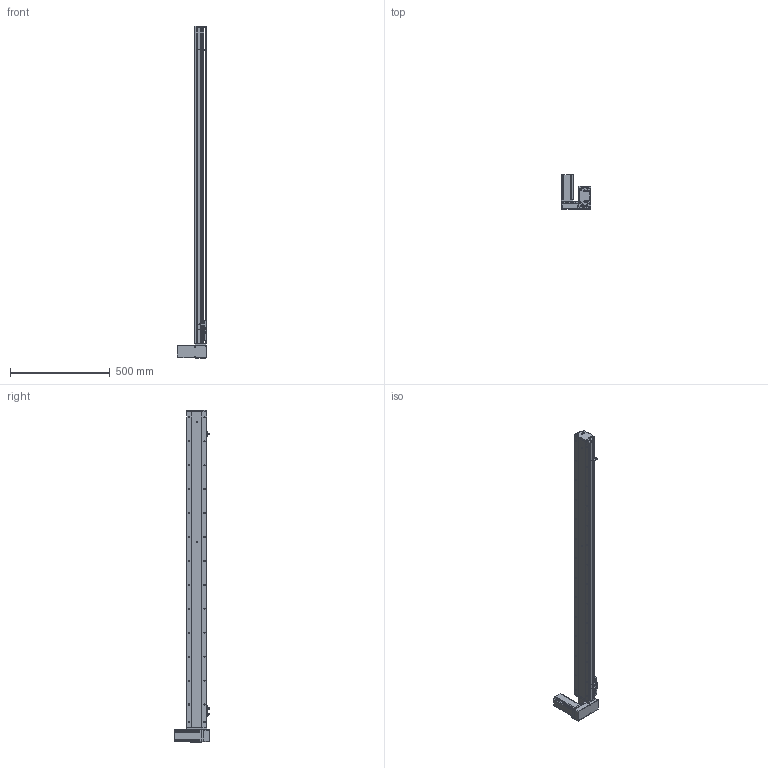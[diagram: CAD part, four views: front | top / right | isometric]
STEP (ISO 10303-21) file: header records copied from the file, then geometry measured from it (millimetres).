
FILE_DESCRIPTION (( 'STEP AP214' ), '1' );
FILE_NAME ('KSD100B-S1400-MRD-CM.STEP', '2019-10-16T08:10:54', ( '微软用户' ), ( '微软中国' ), 'SwSTEP 2.0', 'SolidWorks 2014', '' );
FILE_SCHEMA (( 'AUTOMOTIVE_DESIGN' ));
Length unit declared in the file: millimetre
Products named in the file (12): 悵誘欶奻狟殏; 100宽马达安装板连板上下折丝杆同步带; 台达ECMA－C20604AS伺服电机; U倰嫖萇EEㄜSX672; 覜茼え100遵圉猾敕; 100宽防尘板1400行程-同步带; 100宽马达安装板同步带右; 100宽同步带安装板半封闭; 100宽马达安装板同步带; 100遵傷啣肮祭湍; 100宽底板半封闭同步带1400行程; KSD100B-S1400-MRD-CM
Assembly tree (13 placements, depth 2):
  KSD100B-S1400-MRD-CM
    100宽底板半封闭同步带1400行程
    100遵傷啣肮祭湍
    100宽马达安装板同步带
    100宽同步带安装板半封闭
    100宽马达安装板同步带右
    100宽防尘板1400行程-同步带
    覜茼え100遵圉猾敕
    U倰嫖萇EEㄜSX672  x3
    台达ECMA－C20604AS伺服电机
    100宽马达安装板连板上下折丝杆同步带
    悵誘欶奻狟殏
Bounding box: 148 x 174.7 x 1665 mm (x, y, z)
Volume: 3578458.5 mm3; surface area: 1211541.9 mm2
Topology: 14 solids, 14 shells, 1597 faces, 4520 edges, 2857 vertices
Faces by surface type: cylinder 823, plane 607, cone 167
Entity records: 58053 total; most frequent: CARTESIAN_POINT 12134, DIRECTION 7872, ORIENTED_EDGE 7612, EDGE_CURVE 3806, AXIS2_PLACEMENT_3D 2893, VERTEX_POINT 2481, VECTOR 2086, LINE 2086
